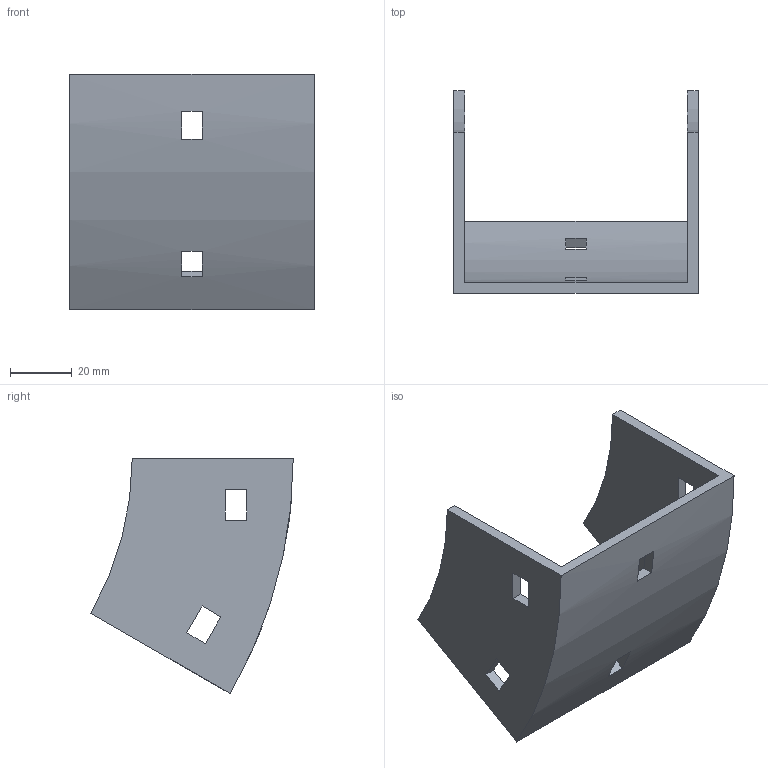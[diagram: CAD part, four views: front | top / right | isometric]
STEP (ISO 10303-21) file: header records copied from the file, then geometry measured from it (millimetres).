
FILE_DESCRIPTION (( 'STEP AP214' ), '1' );
FILE_NAME ('32B1B075.step', '2025-02-21T09:43:19', ( '' ), ( '' ), 'SwSTEP 2.0', 'SolidWorks 2023', '' );
FILE_SCHEMA (( 'AUTOMOTIVE_DESIGN' ));
Length unit declared in the file: millimetre
Products named in the file (1): 32B1B075
Bounding box: 79 x 65.4 x 76 mm (x, y, z)
Volume: 42447.3 mm3; surface area: 26554.9 mm2
Topology: 1 solids, 1 shells, 34 faces, 96 edges, 64 vertices
Faces by surface type: plane 30, cylinder 4
Entity records: 1143 total; most frequent: CARTESIAN_POINT 195, ORIENTED_EDGE 192, DIRECTION 182, EDGE_CURVE 96, LINE 80, VECTOR 80, VERTEX_POINT 64, AXIS2_PLACEMENT_3D 51
